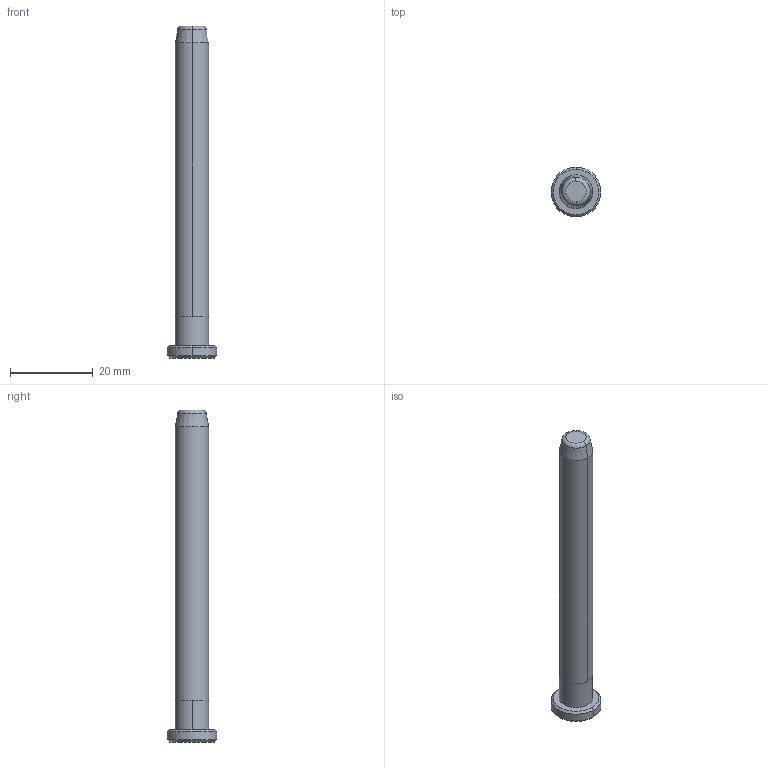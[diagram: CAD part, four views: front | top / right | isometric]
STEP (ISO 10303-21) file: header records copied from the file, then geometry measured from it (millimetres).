
FILE_DESCRIPTION((''),'2;1');
FILE_NAME('B80808080','2018-01-06T',('MANU'),(''),'PRO/ENGINEER BY PARAMETRIC TECHNOLOGY CORPORATION, 2012130','PRO/ENGINEER BY PARAMETRIC TECHNOLOGY CORPORATION, 2012130','');
FILE_SCHEMA(('CONFIG_CONTROL_DESIGN'));
Length unit declared in the file: millimetre
Products named in the file (1): B80808080
Bounding box: 12 x 12 x 80 mm (x, y, z)
Volume: 4166.2 mm3; surface area: 2222.4 mm2
Topology: 1 solids, 1 shells, 18 faces, 34 edges, 20 vertices
Faces by surface type: cone 6, cylinder 6, plane 4, torus 2
Entity records: 494 total; most frequent: DIRECTION 92, CARTESIAN_POINT 72, ORIENTED_EDGE 68, AXIS2_PLACEMENT_3D 40, EDGE_CURVE 34, CIRCLE 22, VERTEX_POINT 20, EDGE_LOOP 20
